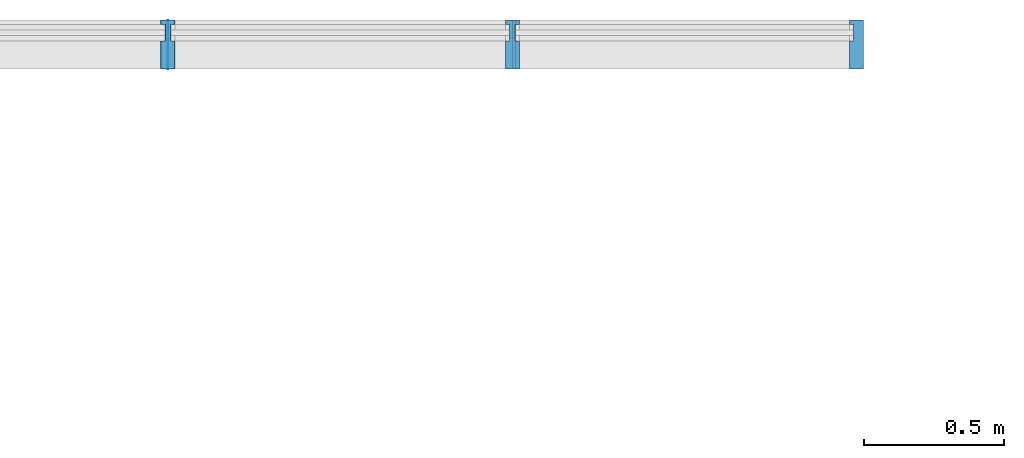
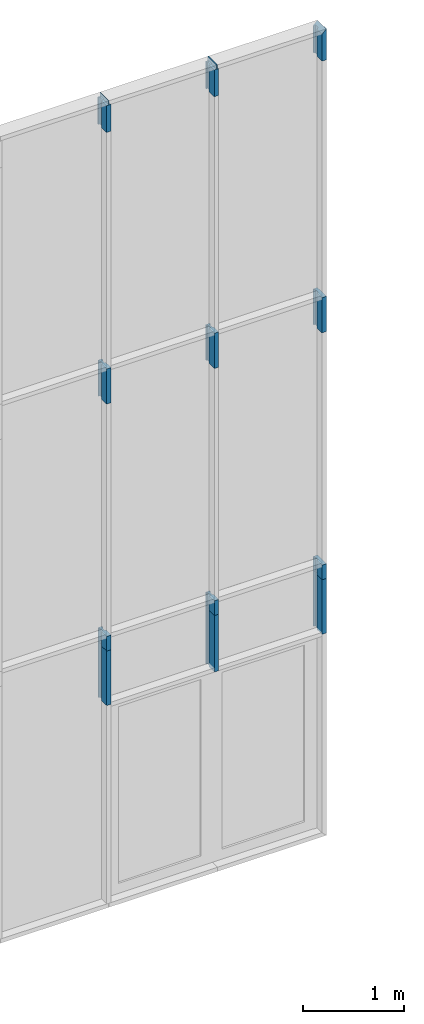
# One storey, part 20 of 387: 14 members, 1 element without a shape of its own.
"""IFC2X3 building model written with IfcOpenShell, lengths in millimetres."""

from ifc_helpers import new_model, entity, si_unit, converted_unit, derived_unit, money_unit, direction, frame, origin_with_axes, place, context, subcontext, project, spatial, polyline, outline, extrude, clip, halfspace, material, type_object, element, aggregate, save


model = new_model("IFC2X3")

# Units and contexts
model_context = context("Model", 3, precision=0.01, world=origin_with_axes(), true_north=direction((0.0, 1.0)))
body_context = subcontext(model_context, "Body", "Model", "MODEL_VIEW")
ifc_project = project(units=[si_unit("LENGTHUNIT", "METRE", prefix="MILLI"), si_unit("AREAUNIT", "SQUARE_METRE"), si_unit("VOLUMEUNIT", "CUBIC_METRE"), converted_unit("PLANEANGLEUNIT", "DEGREE", entity("IfcPlaneAngleMeasure", 0.0174532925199), si_unit("PLANEANGLEUNIT", "RADIAN"), dimensions=[0, 0, 0, 0, 0, 0, 0]), si_unit("SOLIDANGLEUNIT", "STERADIAN"), money_unit("EUR"), converted_unit("TIMEUNIT", "Year", entity("IfcTimeMeasure", 31556926.0), si_unit("TIMEUNIT", "SECOND"), dimensions=[0, 0, 1, 0, 0, 0, 0]), si_unit("MASSUNIT", "GRAM", prefix="KILO"), si_unit("THERMODYNAMICTEMPERATUREUNIT", "DEGREE_CELSIUS"), si_unit("LUMINOUSINTENSITYUNIT", "LUMEN"), si_unit("ENERGYUNIT", "JOULE", prefix="MEGA"), derived_unit("THERMALCONDUCTANCEUNIT", [(si_unit("POWERUNIT", "WATT"), 1), (si_unit("LENGTHUNIT", "METRE"), -1), (si_unit("THERMODYNAMICTEMPERATUREUNIT", "KELVIN"), -1)]), derived_unit("SPECIFICHEATCAPACITYUNIT", [(si_unit("ENERGYUNIT", "JOULE"), 1), (si_unit("MASSUNIT", "GRAM", prefix="KILO"), -1), (si_unit("THERMODYNAMICTEMPERATUREUNIT", "KELVIN"), -1)]), derived_unit("MASSDENSITYUNIT", [(si_unit("MASSUNIT", "GRAM", prefix="KILO"), 1), (si_unit("VOLUMEUNIT", "CUBIC_METRE"), -1)])], contexts=[model_context])

# Site, building, storey
site_placement = place(None, origin_with_axes())
site = spatial("IfcSite", under=ifc_project, at=site_placement, Name="Puškini 31, Narva", CompositionType="ELEMENT")
building_placement = place(site_placement, origin_with_axes())
building = spatial("IfcBuilding", under=site, at=building_placement, Name="Narva Riigigümnaasium", CompositionType="ELEMENT")
storey_placement = place(building_placement, frame((0.0, 0.0, 2640.0), z_axis=(0.0, 0.0, 1.0), x_axis=(1.0, 0.0, 0.0)))
storey = spatial("IfcBuildingStorey", under=building, at=storey_placement, Name="2.korrus +2.64", CompositionType="ELEMENT", Elevation=2640.0)

# Curtain wall, members
curtain_wall_type = type_object("IfcCurtainWallType", Name="Curtain Wall Type", PredefinedType="NOTDEFINED")
curtain_wall_placement = place(storey_placement, frame((50893.5555569, 254360.0, -2029.99998222), z_axis=(0.0, 0.0, 1.0), x_axis=(1.0, 0.0, 0.0)))
curtain_wall = element("IfcCurtainWall", 1, at=curtain_wall_placement, inside=storey, type_object=curtain_wall_type, Name="G-KLF-06")
ifc_material = material(Name="ET-04_Alumiinium")
member_type_1 = type_object("IfcMemberType", Name="Mullion Frame 50 x 176", PredefinedType="MULLION")
member_1_placement = place(curtain_wall_placement, frame((414.444444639, 0.0, 9389.99997589), z_axis=(0.0, 0.0, 1.0), x_axis=(1.0, 0.0, 0.0)))
member_1 = element("IfcMember", 2, at=member_1_placement, type_object=member_type_1, material=ifc_material, Name="klaasfassaadi raam", ObjectType="MULLION", context=body_context, shape_type="SweptSolid", body=[
    extrude(outline(polyline([(-10.0, -29.0), (-25.0, -29.0), (-25.0, -130.0), (25.0, -130.0), (25.0, -29.0), (10.0, -29.0), (10.0, 29.0), (25.0, 29.0), (25.0, 46.0), (-25.0, 46.0), (-25.0, 29.0), (-10.0, 29.0), (-10.0, -29.0)])), frame((0.0, 0.0, -1.84587456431e-06), z_axis=(0.0, 0.0, 1.0), x_axis=(1.0, 0.0, 0.0)), (0.0, 0.0, 1.0), 325.000033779),
])
member_2_placement = place(curtain_wall_placement, frame((416.444423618, 0.0, 6099.99997589), z_axis=(0.0, 0.0, 1.0), x_axis=(1.0, 0.0, 0.0)))
member_2 = element("IfcMember", 3, at=member_2_placement, type_object=member_type_1, material=ifc_material, Name="klaasfassaadi raam", ObjectType="MULLION", context=body_context, shape_type="SweptSolid", body=[
    extrude(outline(polyline([(-10.0, -29.0), (-25.0, -29.0), (-25.0, -130.0), (25.0, -130.0), (25.0, -29.0), (10.0, -29.0), (10.0, 29.0), (25.0, 29.0), (25.0, 46.0), (-25.0, 46.0), (-25.0, 29.0), (-10.0, 29.0), (-10.0, -29.0)])), frame((0.0, 0.0, -1.08266284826e-06), z_axis=(0.0, 0.0, 1.0), x_axis=(1.0, 0.0, 0.0)), (0.0, 0.0, 1.0), 426.666705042),
])
member_3_placement = place(curtain_wall_placement, frame((416.444440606, 0.0, 3109.99997589), z_axis=(0.0, 0.0, 1.0), x_axis=(1.0, 0.0, 0.0)))
member_3 = element("IfcMember", 4, at=member_3_placement, type_object=member_type_1, material=ifc_material, Name="klaasfassaadi raam", ObjectType="MULLION", context=body_context, shape_type="SweptSolid", body=[
    extrude(outline(polyline([(-10.0, -29.0), (-25.0, -29.0), (-25.0, -130.0), (25.0, -130.0), (25.0, -29.0), (10.0, -29.0), (10.0, 29.0), (25.0, 29.0), (25.0, 46.0), (-25.0, 46.0), (-25.0, 29.0), (-10.0, 29.0), (-10.0, -29.0)])), frame((0.0, 0.0, -9.90373116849e-07), z_axis=(0.0, 0.0, 1.0), x_axis=(1.0, 0.0, 0.0)), (0.0, 0.0, 1.0), 178.333366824),
])
member_4_placement = place(curtain_wall_placement, frame((416.444428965, 0.0, 2449.9999984), z_axis=(1.76370816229e-08, 0.0, 1.0), x_axis=(1.0, 0.0, -1.76370816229e-08)))
member_4 = element("IfcMember", 5, at=member_4_placement, type_object=member_type_1, material=ifc_material, Name="klaasfassaadi raam", ObjectType="MULLION", context=body_context, shape_type="SweptSolid", body=[
    extrude(outline(polyline([(-10.0, -29.0), (-25.0, -29.0), (-25.0, -130.0), (25.0, -130.0), (25.0, -29.0), (10.0, -29.0), (10.0, 29.0), (25.0, 29.0), (25.0, 46.0), (-25.0, 46.0), (-25.0, 29.0), (-10.0, 29.0), (-10.0, -29.0)])), frame((0.0, 0.0, -4.40926850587e-07), z_axis=(0.0, 0.0, 1.0), x_axis=(1.0, 0.0, 1.76370816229e-08)), (0.0, 0.0, 1.0), 659.999978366),
])
member_5_placement = place(curtain_wall_placement, frame((1648.94443658, 0.0, 6099.99997589), z_axis=(0.0, 0.0, 1.0), x_axis=(1.0, 0.0, 0.0)))
member_5 = element("IfcMember", 6, at=member_5_placement, type_object=member_type_1, material=ifc_material, Name="klaasfassaadi raam", ObjectType="MULLION", context=body_context, shape_type="SweptSolid", body=[
    extrude(outline(polyline([(-10.0, -29.0), (-25.0, -29.0), (-25.0, -130.0), (25.0, -130.0), (25.0, -29.0), (10.0, -29.0), (10.0, 29.0), (25.0, 29.0), (25.0, 46.0), (-25.0, 46.0), (-25.0, 29.0), (-10.0, 29.0), (-10.0, -29.0)])), frame((0.0, 0.0, -1.08266284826e-06), z_axis=(0.0, 0.0, 1.0), x_axis=(1.0, 0.0, 0.0)), (0.0, 0.0, 1.0), 426.666705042),
])
member_6_placement = place(curtain_wall_placement, frame((1648.9444345, 0.0, 3109.99997589), z_axis=(0.0, 0.0, 1.0), x_axis=(1.0, 0.0, 0.0)))
member_6 = element("IfcMember", 7, at=member_6_placement, type_object=member_type_1, material=ifc_material, Name="klaasfassaadi raam", ObjectType="MULLION", context=body_context, shape_type="SweptSolid", body=[
    extrude(outline(polyline([(-10.0, -29.0), (-25.0, -29.0), (-25.0, -130.0), (25.0, -130.0), (25.0, -29.0), (10.0, -29.0), (10.0, 29.0), (25.0, 29.0), (25.0, 46.0), (-25.0, 46.0), (-25.0, 29.0), (-10.0, 29.0), (-10.0, -29.0)])), frame((0.0, 0.0, -9.90373116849e-07), z_axis=(0.0, 0.0, 1.0), x_axis=(1.0, 0.0, 0.0)), (0.0, 0.0, 1.0), 178.333366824),
])
member_7_placement = place(curtain_wall_placement, frame((1648.94442705, 0.0, 2449.9999984), z_axis=(1.12887588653e-08, 0.0, 1.0), x_axis=(1.0, 0.0, -1.12887588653e-08)))
member_7 = element("IfcMember", 8, at=member_7_placement, type_object=member_type_1, material=ifc_material, Name="klaasfassaadi raam", ObjectType="MULLION", context=body_context, shape_type="SweptSolid", body=[
    extrude(outline(polyline([(-10.0, -29.0), (-25.0, -29.0), (-25.0, -130.0), (25.0, -130.0), (25.0, -29.0), (10.0, -29.0), (10.0, 29.0), (25.0, 29.0), (25.0, 46.0), (-25.0, 46.0), (-25.0, 29.0), (-10.0, 29.0), (-10.0, -29.0)])), frame((0.0, 0.0, -25.0), z_axis=(0.0, 0.0, 1.0), x_axis=(1.0, 0.0, 1.12887588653e-08)), (0.0, 0.0, 1.0), 684.999977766),
])
member_8_placement = place(curtain_wall_placement, frame((1648.94443658, 0.0, 9389.99997589), z_axis=(1.74806194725e-08, 0.0, 1.0), x_axis=(1.0, 0.0, -1.74806194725e-08)))
member_8 = element("IfcMember", 9, at=member_8_placement, type_object=member_type_1, material=ifc_material, Name="klaasfassaadi raam", ObjectType="MULLION", context=body_context, shape_type="SweptSolid", body=[
    extrude(outline(polyline([(-10.0, -29.0), (-25.0, -29.0), (-25.0, -130.0), (25.0, -130.0), (25.0, -29.0), (10.0, -29.0), (10.0, 29.0), (25.0, 29.0), (25.0, 46.0), (-25.0, 46.0), (-25.0, 29.0), (-10.0, 29.0), (-10.0, -29.0)])), frame((0.0, 0.0, -1.84587456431e-06), z_axis=(0.0, 0.0, 1.0), x_axis=(1.0, 0.0, 1.74806194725e-08)), (0.0, 0.0, 1.0), 325.000033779),
])
member_type_2 = type_object("IfcMemberType", Name="Boundary Frame 50 x 176", PredefinedType="MULLION")
member_9_placement = place(curtain_wall_placement, frame((2906.44444492, 0.0, 2449.9999984), z_axis=(0.0, 0.0, 1.0), x_axis=(1.0, 0.0, 0.0)))
member_9 = element("IfcMember", 10, at=member_9_placement, type_object=member_type_2, material=ifc_material, Name="klaasfassaadi raam", ObjectType="MULLION", context=body_context, shape_type="SweptSolid", body=[
    extrude(outline(polyline([(-35.0, -29.0), (-50.0, -29.0), (-50.0, -130.0), (0.0, -130.0), (0.0, 46.0), (-50.0, 46.0), (-50.0, 29.0), (-35.0, 29.0), (-35.0, -29.0)])), origin_with_axes(), (0.0, 0.0, 1.0), 659.999977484),
])
member_10_placement = place(curtain_wall_placement, frame((2906.44444492, 0.0, 9389.99997589), z_axis=(0.0, 0.0, 1.0), x_axis=(1.0, 0.0, 0.0)))
member_10 = element("IfcMember", 11, at=member_10_placement, type_object=member_type_2, material=ifc_material, Name="klaasfassaadi raam", ObjectType="MULLION", context=body_context, shape_type="Clipping", body=[
    clip(extrude(outline(polyline([(-35.0, -29.0), (-50.0, -29.0), (-50.0, -130.0), (0.0, -130.0), (0.0, 46.0), (-50.0, 46.0), (-50.0, 29.0), (-35.0, 29.0), (-35.0, -29.0)])), origin_with_axes(), (0.0, 0.0, 1.0), 375.000028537), halfspace(frame((-187.500014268, 0.0, 187.500014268), z_axis=(0.707106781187, 0.0, -0.707106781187), x_axis=(0.0, 1.0, 0.0)), True)),
])
member_11_placement = place(curtain_wall_placement, frame((1648.94444314, 0.0, 9765.00000442), z_axis=(1.0, 0.0, 0.0), x_axis=(0.0, 0.0, -1.0)))
member_11 = element("IfcMember", 12, at=member_11_placement, type_object=member_type_2, material=ifc_material, Name="klaasfassaadi raam", ObjectType="MULLION", context=body_context, shape_type="SweptSolid", body=[
    extrude(outline(polyline([(29.0, 35.0), (-29.0, 35.0), (-29.0, 50.0), (-46.0, 50.0), (-46.0, 0.0), (130.0, 0.0), (130.0, 50.0), (29.0, 50.0), (29.0, 35.0)])), frame((0.0, 0.0, 0.0), z_axis=(0.0, 0.0, 1.0), x_axis=(0.0, -1.0, 0.0)), (0.0, 0.0, 1.0), 11.5000016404),
])
member_12_placement = place(curtain_wall_placement, frame((2906.44444492, 0.0, 3109.99997589), z_axis=(0.0, 0.0, 1.0), x_axis=(1.0, 0.0, 0.0)))
member_12 = element("IfcMember", 13, at=member_12_placement, type_object=member_type_2, material=ifc_material, Name="klaasfassaadi raam", ObjectType="MULLION", context=body_context, shape_type="SweptSolid", body=[
    extrude(outline(polyline([(-35.0, -29.0), (-50.0, -29.0), (-50.0, -130.0), (0.0, -130.0), (0.0, 46.0), (-50.0, 46.0), (-50.0, 29.0), (-35.0, 29.0), (-35.0, -29.0)])), origin_with_axes(), (0.0, 0.0, 1.0), 178.333362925),
])
member_13_placement = place(curtain_wall_placement, frame((2906.44444492, 0.0, 6099.99997589), z_axis=(0.0, 0.0, 1.0), x_axis=(1.0, 0.0, 0.0)))
member_13 = element("IfcMember", 14, at=member_13_placement, type_object=member_type_2, material=ifc_material, Name="klaasfassaadi raam", ObjectType="MULLION", context=body_context, shape_type="SweptSolid", body=[
    extrude(outline(polyline([(-35.0, -29.0), (-50.0, -29.0), (-50.0, -130.0), (0.0, -130.0), (0.0, 46.0), (-50.0, 46.0), (-50.0, 29.0), (-35.0, 29.0), (-35.0, -29.0)])), origin_with_axes(), (0.0, 0.0, 1.0), 426.666682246),
])
member_14_placement = place(curtain_wall_placement, frame((414.444444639, 0.0, 9765.00000442), z_axis=(1.0, 0.0, 0.0), x_axis=(0.0, 0.0, -1.0)))
member_14 = element("IfcMember", 15, at=member_14_placement, type_object=member_type_2, material=ifc_material, Name="klaasfassaadi raam", ObjectType="MULLION", context=body_context, shape_type="SweptSolid", body=[
    extrude(outline(polyline([(29.0, 35.0), (-29.0, 35.0), (-29.0, 50.0), (-46.0, 50.0), (-46.0, 0.0), (130.0, 0.0), (130.0, 50.0), (29.0, 50.0), (29.0, 35.0)])), frame((0.0, 0.0, 0.0), z_axis=(0.0, 0.0, 1.0), x_axis=(0.0, -1.0, 0.0)), (0.0, 0.0, 1.0), 2.00000676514),
])
aggregate(curtain_wall, [member_9, member_10, member_1, member_11, member_12, member_13, member_2, member_3, member_4, member_14, member_5, member_6, member_7, member_8])

save(model, "model.ifc")
